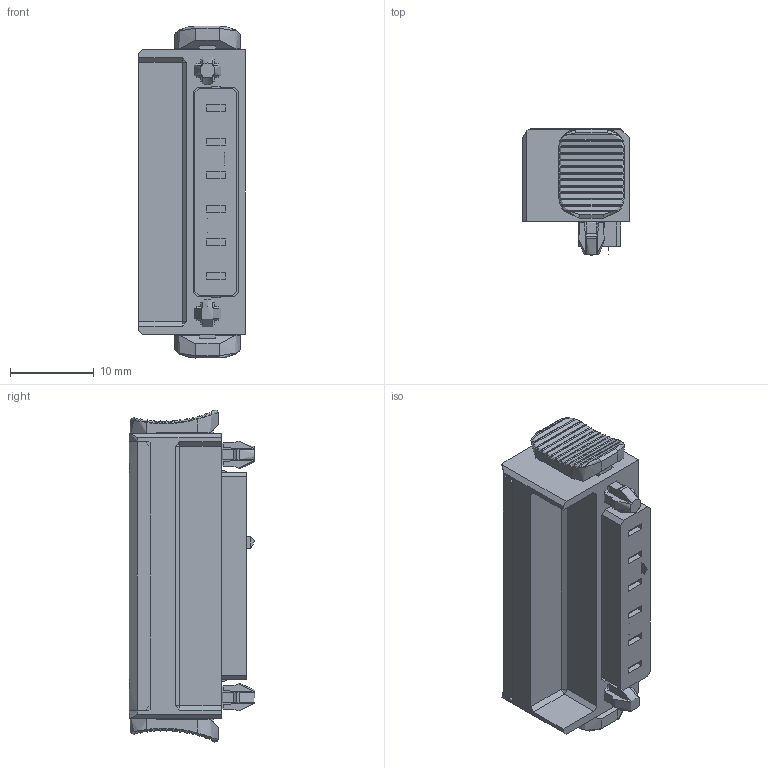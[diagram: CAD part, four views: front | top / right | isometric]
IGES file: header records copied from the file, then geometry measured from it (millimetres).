
Global section: file name: 21.06.212.113.2; native system: unknown; preprocessor: unknown; author: unknown; organization: unknown; date: 20221117.052942; units: millimetre
Bounding box: 12.7 x 15.02 x 39.62 mm (x, y, z)
Volume: 3996.5 mm3; surface area: 3674.3 mm2
Topology: 1 solids, 1 shells, 1136 faces, 3195 edges, 2049 vertices
Faces by surface type: bspline 1136
